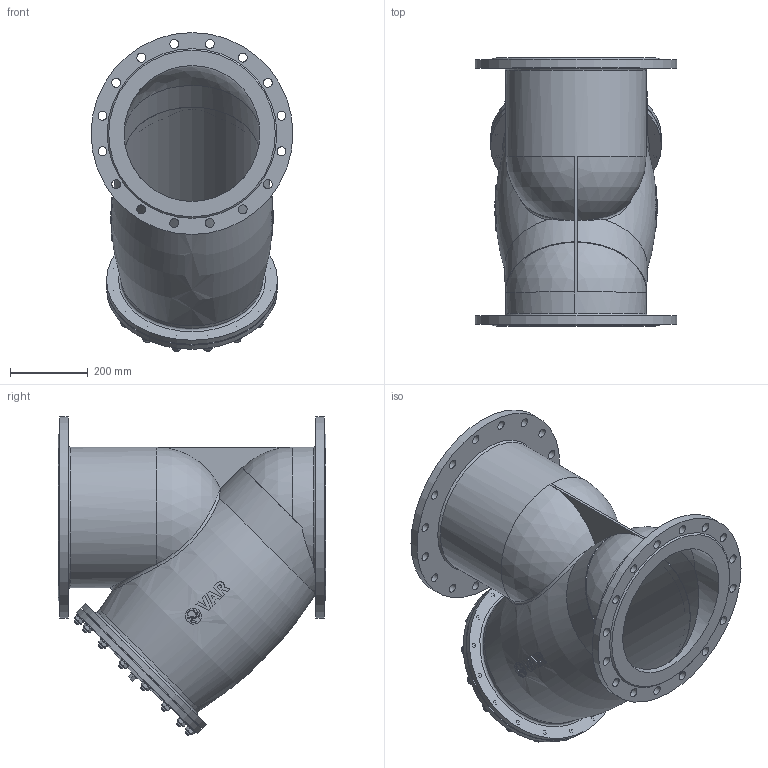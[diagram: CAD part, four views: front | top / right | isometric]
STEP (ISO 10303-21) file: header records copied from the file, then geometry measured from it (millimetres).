
FILE_DESCRIPTION(('STEP AP203'), '1');
FILE_NAME('VAR STRAINER ôèëüòð-ãðÿçåóëîâèòåëü', '', ('UNSPECIFIED'), ('UNSPECIFIED'), 'C3D Converter', 'C3D Toolkit', '');
FILE_SCHEMA(('CONFIG_CONTROL_DESIGN'));
Length unit declared in the file: millimetre
Assembly tree (53 placements, depth 2):
  (unnamed)
    (unnamed)
    (unnamed)
    (unnamed)  x16
    (unnamed)  x16
    (unnamed)  x16
    (unnamed)
    (unnamed)
    (unnamed)
Bounding box: 520 x 690 x 821.2 mm (x, y, z)
Volume: 16408502 mm3; surface area: 4213000.3 mm2
Topology: 54 solids, 54 shells, 788 faces, 1858 edges, 1209 vertices
Faces by surface type: plane 321, extrusion 156, cylinder 154, cone 116, torus 27, sphere 8, bspline 6
Full cylindrical faces by diameter (mm): 14 x48, 15 x16, 16 x18, 23 x32, 24 x1, 28 x16, 40.925 x1, 350 x6, 354 x3, 362 x1, 366 x1, 376 x1, 378 x2, 440 x2, 520 x2
Entity records: 32034 total; most frequent: CARTESIAN_POINT 18124, ORIENTED_EDGE 2112, DIRECTION 1695, EDGE_CURVE 1056, VERTEX_POINT 770, EDGE_LOOP 720, B_SPLINE_CURVE_WITH_KNOTS 637, AXIS2_PLACEMENT_3D 626
